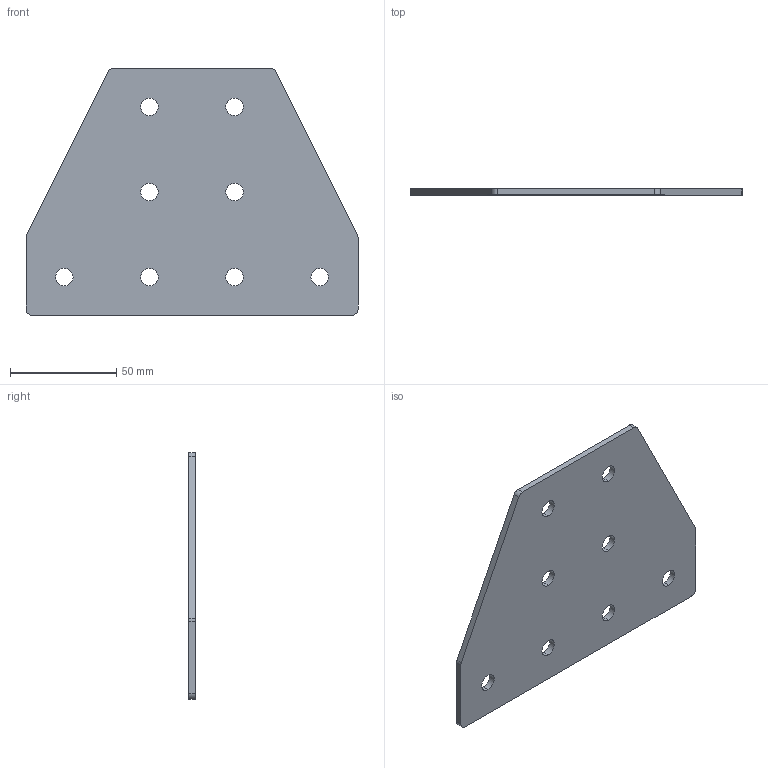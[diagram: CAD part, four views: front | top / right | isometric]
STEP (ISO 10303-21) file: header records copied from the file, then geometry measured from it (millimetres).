
FILE_DESCRIPTION (( 'STEP AP203' ), '1' );
FILE_NAME ('ﾒ-8-ﾓ-40.STEP', '2016-07-22T10:47:50', ( '' ), ( '' ), 'SwSTEP 2.0', 'SolidWorks 2014', '' );
FILE_SCHEMA (( 'CONFIG_CONTROL_DESIGN' ));
Length unit declared in the file: millimetre
Products named in the file (1): ﾒ-8-ﾓ-40
Bounding box: 156 x 3 x 116 mm (x, y, z)
Surface area: 31239.2 mm2 (no closed solid volume)
Topology: 0 solids, 1 shells, 30 faces, 84 edges, 56 vertices
Faces by surface type: cylinder 22, plane 8
Entity records: 1101 total; most frequent: DIRECTION 190, CARTESIAN_POINT 171, ORIENTED_EDGE 168, EDGE_CURVE 84, AXIS2_PLACEMENT_3D 75, VERTEX_POINT 56, EDGE_LOOP 46, CIRCLE 44
